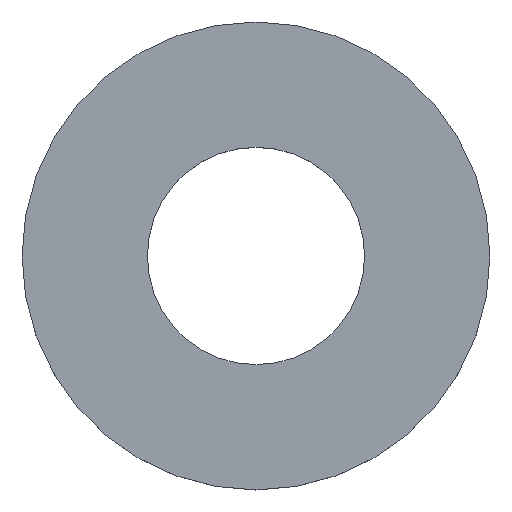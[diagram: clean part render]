
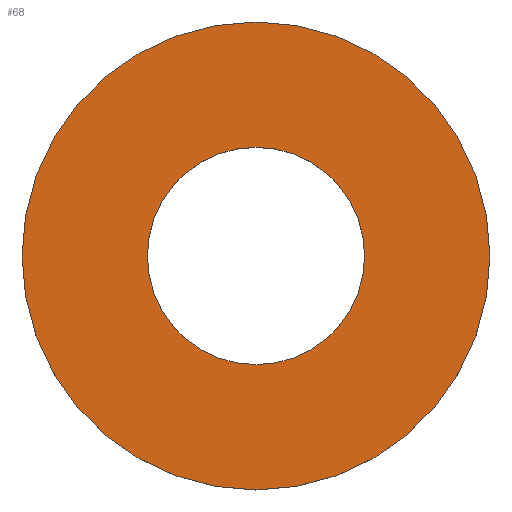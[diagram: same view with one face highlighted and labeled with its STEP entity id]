
A CAD part, top view. The second image highlights one B-rep face of the part: STEP entity #68.
In plain terms, the highlighted planar face has unit normal (0, 0, 1).
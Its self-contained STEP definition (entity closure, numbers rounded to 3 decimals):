
#39 = EDGE_CURVE('',#40,#40,#42,.T.);
#40 = VERTEX_POINT('',#41);
#41 = CARTESIAN_POINT('',(38.8,70.875,15.));
#42 = CIRCLE('',#43,2.8);
#43 = AXIS2_PLACEMENT_3D('',#44,#45,#46);
#44 = CARTESIAN_POINT('',(36.,70.875,15.));
#45 = DIRECTION('',(0.,0.,1.));
#46 = DIRECTION('',(1.,0.,-0.));
#68 = ADVANCED_FACE('',(#69,#72),#83,.T.);
#69 = FACE_BOUND('',#70,.T.);
#70 = EDGE_LOOP('',(#71));
#71 = ORIENTED_EDGE('',*,*,#39,.T.);
#72 = FACE_BOUND('',#73,.T.);
#73 = EDGE_LOOP('',(#74));
#74 = ORIENTED_EDGE('',*,*,#75,.F.);
#75 = EDGE_CURVE('',#76,#76,#78,.T.);
#76 = VERTEX_POINT('',#77);
#77 = CARTESIAN_POINT('',(37.3,70.875,15.));
#78 = CIRCLE('',#79,1.3);
#79 = AXIS2_PLACEMENT_3D('',#80,#81,#82);
#80 = CARTESIAN_POINT('',(36.,70.875,15.));
#81 = DIRECTION('',(0.,0.,1.));
#82 = DIRECTION('',(1.,0.,-0.));
#83 = PLANE('',#84);
#84 = AXIS2_PLACEMENT_3D('',#85,#86,#87);
#85 = CARTESIAN_POINT('',(36.,70.875,15.));
#86 = DIRECTION('',(0.,0.,1.));
#87 = DIRECTION('',(1.,0.,-0.));
